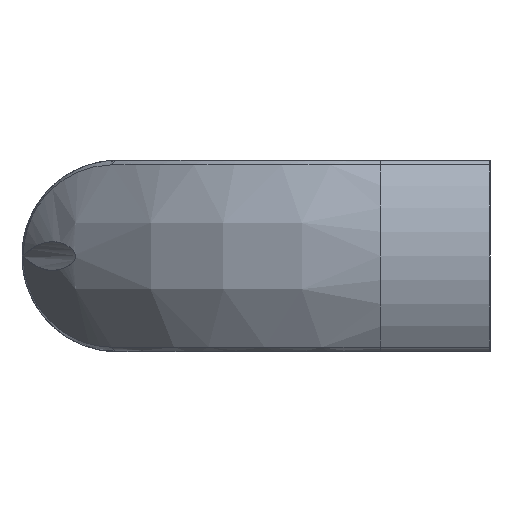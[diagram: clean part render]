
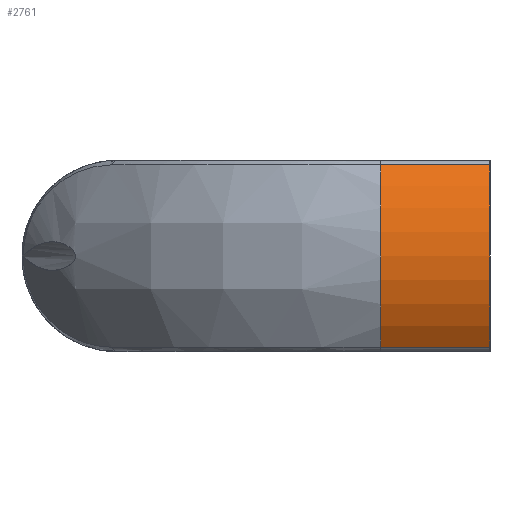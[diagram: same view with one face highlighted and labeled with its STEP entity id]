
A CAD part, left-side view. The second image highlights one B-rep face of the part: STEP entity #2761.
In plain terms, the highlighted cylindrical face has radius 28.521 mm (diameter 57.042 mm), a partial arc.
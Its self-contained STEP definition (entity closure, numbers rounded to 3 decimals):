
#110 = DIRECTION ( 'NONE',  ( 0., 0., 1. ) ) ;
#319 = VECTOR ( 'NONE', #3509, 1000. ) ;
#433 = EDGE_CURVE ( 'NONE', #4587, #942, #603, .T. ) ;
#463 = EDGE_CURVE ( 'NONE', #2138, #4056, #2753, .T. ) ;
#497 = CIRCLE ( 'NONE', #4438, 28.521 ) ;
#603 = LINE ( 'NONE', #5678, #4031 ) ;
#704 = ORIENTED_EDGE ( 'NONE', *, *, #433, .T. ) ;
#824 = CARTESIAN_POINT ( 'NONE',  ( -31.122, 20., -16.669 ) ) ;
#942 = VERTEX_POINT ( 'NONE', #2635 ) ;
#1236 = AXIS2_PLACEMENT_3D ( 'NONE', #4559, #2096, #1740 ) ;
#1740 = DIRECTION ( 'NONE',  ( 0., 0., -1. ) ) ;
#1965 = DIRECTION ( 'NONE',  ( 0., 1., 0. ) ) ;
#2096 = DIRECTION ( 'NONE',  ( 0., -1., 0. ) ) ;
#2138 = VERTEX_POINT ( 'NONE', #2663 ) ;
#2198 = ORIENTED_EDGE ( 'NONE', *, *, #5334, .F. ) ;
#2264 = ORIENTED_EDGE ( 'NONE', *, *, #5897, .T. ) ;
#2278 = FACE_OUTER_BOUND ( 'NONE', #5734, .T. ) ;
#2612 = CIRCLE ( 'NONE', #3476, 28.521 ) ;
#2635 = CARTESIAN_POINT ( 'NONE',  ( -31.122, 0., -16.669 ) ) ;
#2663 = CARTESIAN_POINT ( 'NONE',  ( -31.122, 0., 16.669 ) ) ;
#2753 = LINE ( 'NONE', #3110, #319 ) ;
#2761 = ADVANCED_FACE ( 'NONE', ( #2278 ), #4497, .T. ) ;
#2850 = DIRECTION ( 'NONE',  ( 0., 1., 0. ) ) ;
#3110 = CARTESIAN_POINT ( 'NONE',  ( -31.122, 20., 16.669 ) ) ;
#3476 = AXIS2_PLACEMENT_3D ( 'NONE', #5622, #2850, #110 ) ;
#3509 = DIRECTION ( 'NONE',  ( 0., 1., 0. ) ) ;
#3904 = ORIENTED_EDGE ( 'NONE', *, *, #463, .T. ) ;
#4031 = VECTOR ( 'NONE', #5839, 1000. ) ;
#4056 = VERTEX_POINT ( 'NONE', #5644 ) ;
#4438 = AXIS2_PLACEMENT_3D ( 'NONE', #4759, #1965, #5201 ) ;
#4497 = CYLINDRICAL_SURFACE ( 'NONE', #1236, 28.521 ) ;
#4559 = CARTESIAN_POINT ( 'NONE',  ( -7.979, 20., 0. ) ) ;
#4587 = VERTEX_POINT ( 'NONE', #824 ) ;
#4759 = CARTESIAN_POINT ( 'NONE',  ( -7.979, 0., 0. ) ) ;
#5201 = DIRECTION ( 'NONE',  ( 0., 0., 1. ) ) ;
#5334 = EDGE_CURVE ( 'NONE', #4587, #4056, #2612, .T. ) ;
#5622 = CARTESIAN_POINT ( 'NONE',  ( -7.979, 20., 0. ) ) ;
#5644 = CARTESIAN_POINT ( 'NONE',  ( -31.122, 20., 16.669 ) ) ;
#5678 = CARTESIAN_POINT ( 'NONE',  ( -31.122, 20., -16.669 ) ) ;
#5734 = EDGE_LOOP ( 'NONE', ( #2198, #704, #2264, #3904 ) ) ;
#5839 = DIRECTION ( 'NONE',  ( 0., -1., 0. ) ) ;
#5897 = EDGE_CURVE ( 'NONE', #942, #2138, #497, .T. ) ;
